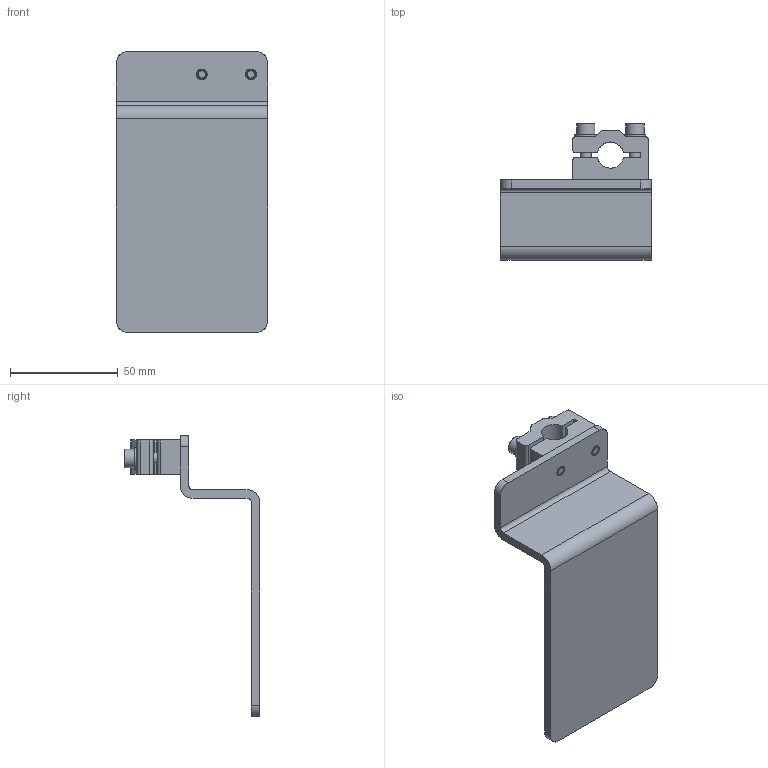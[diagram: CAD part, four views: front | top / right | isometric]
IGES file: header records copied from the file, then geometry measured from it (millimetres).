
Global section: file name: e:\Temp\3D_btp300m_d12.igs; native system: NX V6.0; preprocessor: SIEMENS UGS NX 6.0; date: 20120423.101220; units: millimetre
Bounding box: 70 x 63 x 130 mm (x, y, z)
Surface area: 30313.7 mm2 (no closed solid volume)
Topology: 0 solids, 0 shells, 92 faces, 5666 edges, 10244 vertices
Faces by surface type: bspline 92
